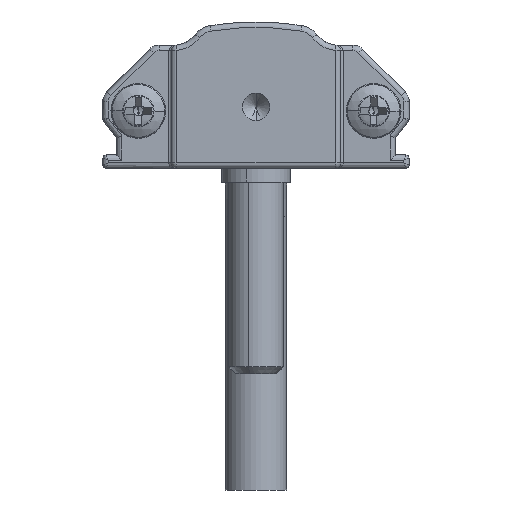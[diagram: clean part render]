
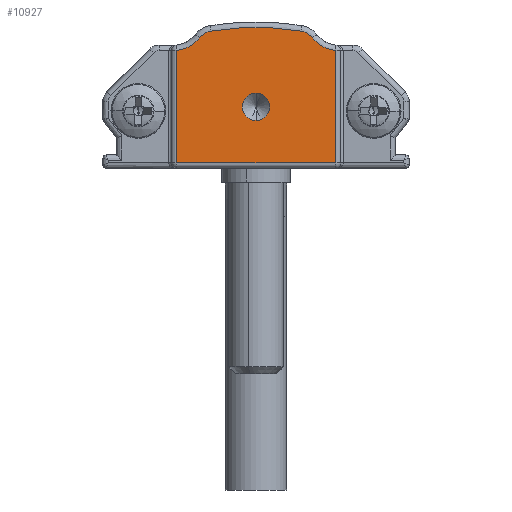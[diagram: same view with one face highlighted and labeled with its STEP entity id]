
A CAD part, front view. The second image highlights one B-rep face of the part: STEP entity #10927.
In plain terms, the highlighted planar face has unit normal (0, -1, 0).
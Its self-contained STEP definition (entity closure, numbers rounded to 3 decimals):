
#162 = VERTEX_POINT ( 'NONE', #13475 ) ;
#425 = EDGE_CURVE ( 'NONE', #29879, #20535, #5857, .T. ) ;
#562 = ORIENTED_EDGE ( 'NONE', *, *, #24336, .T. ) ;
#614 = CARTESIAN_POINT ( 'NONE',  ( 8.1, -15., 8.75 ) ) ;
#1329 = CARTESIAN_POINT ( 'NONE',  ( 17., -15., 8.612 ) ) ;
#1512 = CIRCLE ( 'NONE', #20046, 1. ) ;
#1709 = DIRECTION ( 'NONE',  ( 0., 1., 0. ) ) ;
#2024 = AXIS2_PLACEMENT_3D ( 'NONE', #6522, #1709, #30836 ) ;
#2151 = AXIS2_PLACEMENT_3D ( 'NONE', #6591, #8745, #6280 ) ;
#2335 = LINE ( 'NONE', #32228, #32691 ) ;
#2562 = CARTESIAN_POINT ( 'NONE',  ( 7.068, -15., 9.541 ) ) ;
#2709 = FACE_BOUND ( 'NONE', #32105, .T. ) ;
#3187 = DIRECTION ( 'NONE',  ( 0., -1., 0. ) ) ;
#3479 = ORIENTED_EDGE ( 'NONE', *, *, #23168, .T. ) ;
#4028 = VERTEX_POINT ( 'NONE', #22292 ) ;
#4466 = CARTESIAN_POINT ( 'NONE',  ( 17., -15., 0.4 ) ) ;
#5004 = DIRECTION ( 'NONE',  ( 0., -1., 0. ) ) ;
#5178 = VERTEX_POINT ( 'NONE', #1329 ) ;
#5651 = ORIENTED_EDGE ( 'NONE', *, *, #27338, .T. ) ;
#5837 = FACE_OUTER_BOUND ( 'NONE', #9627, .T. ) ;
#5857 = CIRCLE ( 'NONE', #2151, 1.3 ) ;
#6280 = DIRECTION ( 'NONE',  ( 0., 0., -1. ) ) ;
#6522 = CARTESIAN_POINT ( 'NONE',  ( 5.162, -15., 11. ) ) ;
#6591 = CARTESIAN_POINT ( 'NONE',  ( 14.3, -15., 8.75 ) ) ;
#6810 = CIRCLE ( 'NONE', #2024, 2.4 ) ;
#7323 = DIRECTION ( 'NONE',  ( 1., 0., 0. ) ) ;
#7344 = CARTESIAN_POINT ( 'NONE',  ( 5.4, -15., 8.612 ) ) ;
#7985 = ORIENTED_EDGE ( 'NONE', *, *, #15691, .T. ) ;
#8329 = PLANE ( 'NONE',  #26788 ) ;
#8580 = VERTEX_POINT ( 'NONE', #8906 ) ;
#8745 = DIRECTION ( 'NONE',  ( 0., -1., 0. ) ) ;
#8906 = CARTESIAN_POINT ( 'NONE',  ( 11.2, -15., 3.5 ) ) ;
#9627 = EDGE_LOOP ( 'NONE', ( #13342, #32163, #10365, #562, #3479, #7985, #27864, #5651 ) ) ;
#9685 = EDGE_CURVE ( 'NONE', #5178, #29879, #16137, .T. ) ;
#10308 = CIRCLE ( 'NONE', #28789, 20.676 ) ;
#10365 = ORIENTED_EDGE ( 'NONE', *, *, #425, .T. ) ;
#10383 = DIRECTION ( 'NONE',  ( 0., 0., -1. ) ) ;
#10410 = DIRECTION ( 'NONE',  ( 0., 0., 1. ) ) ;
#10700 = CARTESIAN_POINT ( 'NONE',  ( 14.508, -15., 10.034 ) ) ;
#10927 = ADVANCED_FACE ( 'NONE', ( #5837, #2709 ), #8329, .T. ) ;
#11038 = CIRCLE ( 'NONE', #31567, 1. ) ;
#11658 = VERTEX_POINT ( 'NONE', #22269 ) ;
#11818 = EDGE_CURVE ( 'NONE', #17262, #8580, #11038, .T. ) ;
#12636 = DIRECTION ( 'NONE',  ( 0., 0., -1. ) ) ;
#13078 = LINE ( 'NONE', #17119, #32641 ) ;
#13342 = ORIENTED_EDGE ( 'NONE', *, *, #15335, .T. ) ;
#13475 = CARTESIAN_POINT ( 'NONE',  ( 7.892, -15., 10.034 ) ) ;
#15335 = EDGE_CURVE ( 'NONE', #4028, #5178, #13078, .T. ) ;
#15691 = EDGE_CURVE ( 'NONE', #29218, #24574, #6810, .T. ) ;
#16082 = EDGE_CURVE ( 'NONE', #24574, #11658, #2335, .T. ) ;
#16114 = DIRECTION ( 'NONE',  ( 0., 0., -1. ) ) ;
#16137 = CIRCLE ( 'NONE', #27215, 2.4 ) ;
#16249 = CARTESIAN_POINT ( 'NONE',  ( 11.2, -15., 5.5 ) ) ;
#17119 = CARTESIAN_POINT ( 'NONE',  ( 17., -15., 8.612 ) ) ;
#17214 = DIRECTION ( 'NONE',  ( 0., 1., 0. ) ) ;
#17262 = VERTEX_POINT ( 'NONE', #16249 ) ;
#18441 = DIRECTION ( 'NONE',  ( 0., -1., 0. ) ) ;
#19634 = CARTESIAN_POINT ( 'NONE',  ( 11.2, -15., -10.376 ) ) ;
#20046 = AXIS2_PLACEMENT_3D ( 'NONE', #22080, #5004, #12636 ) ;
#20535 = VERTEX_POINT ( 'NONE', #10700 ) ;
#21012 = DIRECTION ( 'NONE',  ( 0., -1., 0. ) ) ;
#21147 = DIRECTION ( 'NONE',  ( 0., 0., -1. ) ) ;
#21675 = EDGE_CURVE ( 'NONE', #8580, #17262, #1512, .T. ) ;
#21737 = AXIS2_PLACEMENT_3D ( 'NONE', #614, #21012, #10383 ) ;
#22080 = CARTESIAN_POINT ( 'NONE',  ( 11.2, -15., 4.5 ) ) ;
#22269 = CARTESIAN_POINT ( 'NONE',  ( 5.4, -15., 0.4 ) ) ;
#22292 = CARTESIAN_POINT ( 'NONE',  ( 17., -15., 0.4 ) ) ;
#23168 = EDGE_CURVE ( 'NONE', #162, #29218, #32241, .T. ) ;
#23453 = CARTESIAN_POINT ( 'NONE',  ( 17.238, -15., 11. ) ) ;
#24336 = EDGE_CURVE ( 'NONE', #20535, #162, #10308, .T. ) ;
#24574 = VERTEX_POINT ( 'NONE', #7344 ) ;
#24996 = DIRECTION ( 'NONE',  ( 0., 0., -1. ) ) ;
#26788 = AXIS2_PLACEMENT_3D ( 'NONE', #30754, #18441, #30432 ) ;
#27102 = CARTESIAN_POINT ( 'NONE',  ( 15.332, -15., 9.541 ) ) ;
#27163 = LINE ( 'NONE', #4466, #30873 ) ;
#27215 = AXIS2_PLACEMENT_3D ( 'NONE', #23453, #17214, #21147 ) ;
#27338 = EDGE_CURVE ( 'NONE', #11658, #4028, #27163, .T. ) ;
#27864 = ORIENTED_EDGE ( 'NONE', *, *, #16082, .T. ) ;
#28647 = CARTESIAN_POINT ( 'NONE',  ( 11.2, -15., 4.5 ) ) ;
#28789 = AXIS2_PLACEMENT_3D ( 'NONE', #19634, #29674, #29986 ) ;
#29218 = VERTEX_POINT ( 'NONE', #2562 ) ;
#29674 = DIRECTION ( 'NONE',  ( 0., -1., 0. ) ) ;
#29879 = VERTEX_POINT ( 'NONE', #27102 ) ;
#29986 = DIRECTION ( 'NONE',  ( 0., 0., -1. ) ) ;
#30102 = ORIENTED_EDGE ( 'NONE', *, *, #11818, .F. ) ;
#30432 = DIRECTION ( 'NONE',  ( 0., 0., -1. ) ) ;
#30754 = CARTESIAN_POINT ( 'NONE',  ( 22.15, -15., 3.606 ) ) ;
#30836 = DIRECTION ( 'NONE',  ( 0., 0., -1. ) ) ;
#30873 = VECTOR ( 'NONE', #7323, 1000. ) ;
#31201 = ORIENTED_EDGE ( 'NONE', *, *, #21675, .F. ) ;
#31567 = AXIS2_PLACEMENT_3D ( 'NONE', #28647, #3187, #16114 ) ;
#32105 = EDGE_LOOP ( 'NONE', ( #31201, #30102 ) ) ;
#32163 = ORIENTED_EDGE ( 'NONE', *, *, #9685, .T. ) ;
#32228 = CARTESIAN_POINT ( 'NONE',  ( 5.4, -15., 0.4 ) ) ;
#32241 = CIRCLE ( 'NONE', #21737, 1.3 ) ;
#32641 = VECTOR ( 'NONE', #10410, 1000. ) ;
#32691 = VECTOR ( 'NONE', #24996, 1000. ) ;
